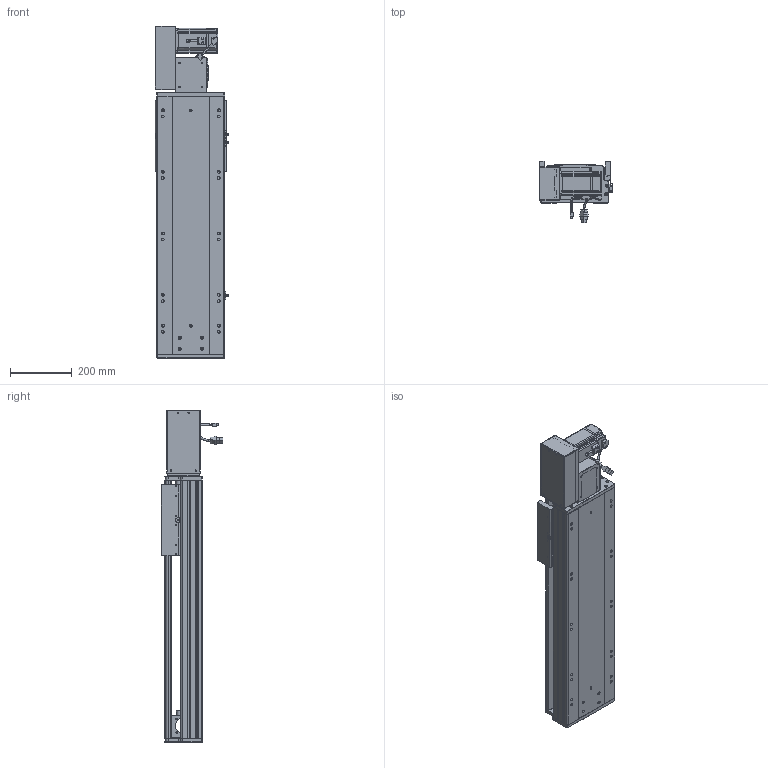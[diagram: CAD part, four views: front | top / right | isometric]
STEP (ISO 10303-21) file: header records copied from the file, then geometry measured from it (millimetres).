
FILE_DESCRIPTION (( 'STEP AP203' ), '1' );
FILE_NAME ('RY220-T-300-LK.SLDASM_500.step', '2022-07-25T08:13:14', ( '' ), ( '' ), 'SwSTEP 2.0', 'SolidWorks 2016', '' );
FILE_SCHEMA (( 'CONFIG_CONTROL_DESIGN' ));
Length unit declared in the file: millimetre
Products named in the file (14): RY220翋肮祭謫裔啣; 覜茼ん672; RY220圉猾敕々湍臏賑輸; 怢湛750W_ECMA-CX0807ES; 滅袉蝶18-15; RY220翋肮祭謫釱; RY220-T-300-奻裔啣_500; RY220-T菁釱-300_500; RY220-俋离672覜茼んえ; RY220-T-湍謫欶(鍼踢); RY220-T-300-LK.SLDASM_500; 110A-T-肮祭謫釱傷裔; RY220-同步轮副支撑座6304×2; RY220-T-蛌殏萇儂假蚾啣(750W)
Assembly tree (18 placements, depth 2):
  RY220-T-300-LK.SLDASM_500
    RY220-T菁釱-300_500
    RY220翋肮祭謫釱
    覜茼ん672  x3
    RY220圉猾敕々湍臏賑輸
    RY220-T-300-奻裔啣_500
    RY220-俋离672覜茼んえ
    滅袉蝶18-15  x3
    RY220翋肮祭謫裔啣  x2
    110A-T-肮祭謫釱傷裔
    怢湛750W_ECMA-CX0807ES
    RY220-T-湍謫欶(鍼踢)
    RY220-T-蛌殏萇儂假蚾啣(750W)
    RY220-同步轮副支撑座6304×2
Bounding box: 239.7 x 198.77 x 1079 mm (x, y, z)
Volume: 9023212.8 mm3; surface area: 2525711.8 mm2
Topology: 19 solids, 19 shells, 2524 faces, 6959 edges, 4436 vertices
Faces by surface type: cylinder 1160, plane 1069, cone 213, bspline 56, sphere 16, torus 10
Entity records: 83939 total; most frequent: CARTESIAN_POINT 24055, ORIENTED_EDGE 12474, DIRECTION 11692, EDGE_CURVE 6237, AXIS2_PLACEMENT_3D 4102, VERTEX_POINT 4060, LINE 3488, VECTOR 3488
